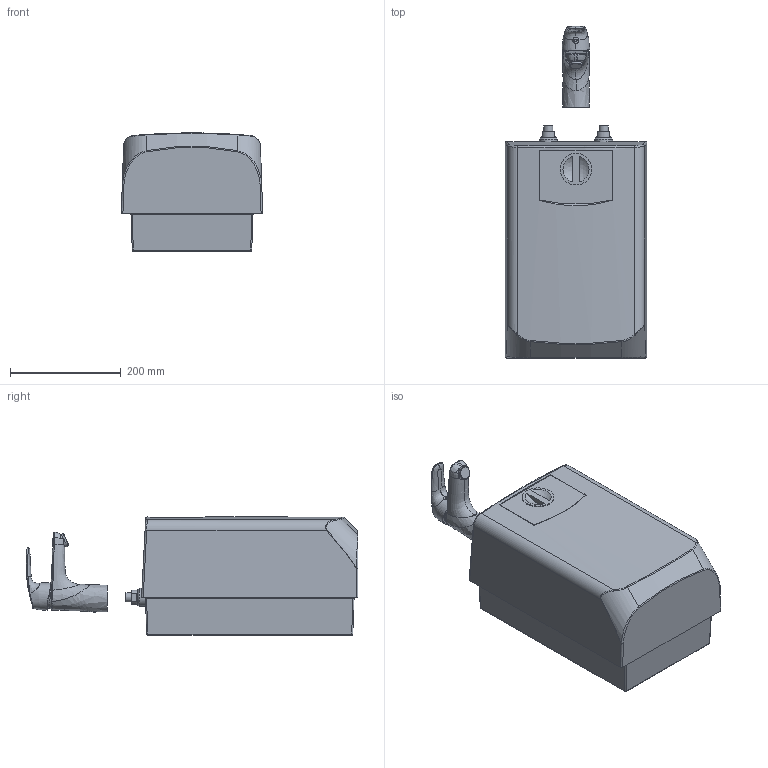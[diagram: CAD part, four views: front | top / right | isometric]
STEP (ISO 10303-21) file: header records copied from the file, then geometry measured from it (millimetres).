
FILE_DESCRIPTION (( 'STEP AP203' ), '1' );
FILE_NAME ('1003F(2017).STEP', '2017-03-09T05:39:37', ( '' ), ( '' ), 'SwSTEP 2.0', 'SolidWorks 2016', '' );
FILE_SCHEMA (( 'CONFIG_CONTROL_DESIGN' ));
Length unit declared in the file: millimetre
Products named in the file (1): 1003F(2017)
Bounding box: 255 x 598.12 x 212.99 mm (x, y, z)
Volume: 19496895.1 mm3; surface area: 479657.2 mm2
Topology: 2 solids, 2 shells, 175 faces, 414 edges, 252 vertices
Faces by surface type: bspline 73, plane 46, cylinder 38, sphere 10, cone 8
Full cylindrical faces by diameter (mm): 16.5 x2, 24 x1, 25.5 x2, 32.3 x2, 57 x1
Entity records: 23564 total; most frequent: CARTESIAN_POINT 20250, ORIENTED_EDGE 772, DIRECTION 483, EDGE_CURVE 386, VERTEX_POINT 241, EDGE_LOOP 201, AXIS2_PLACEMENT_3D 192, FACE_OUTER_BOUND 186
